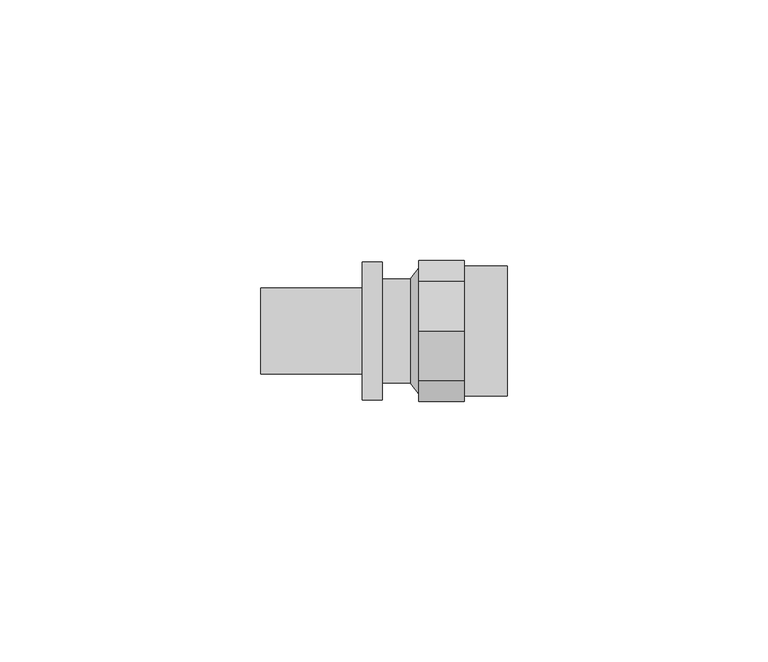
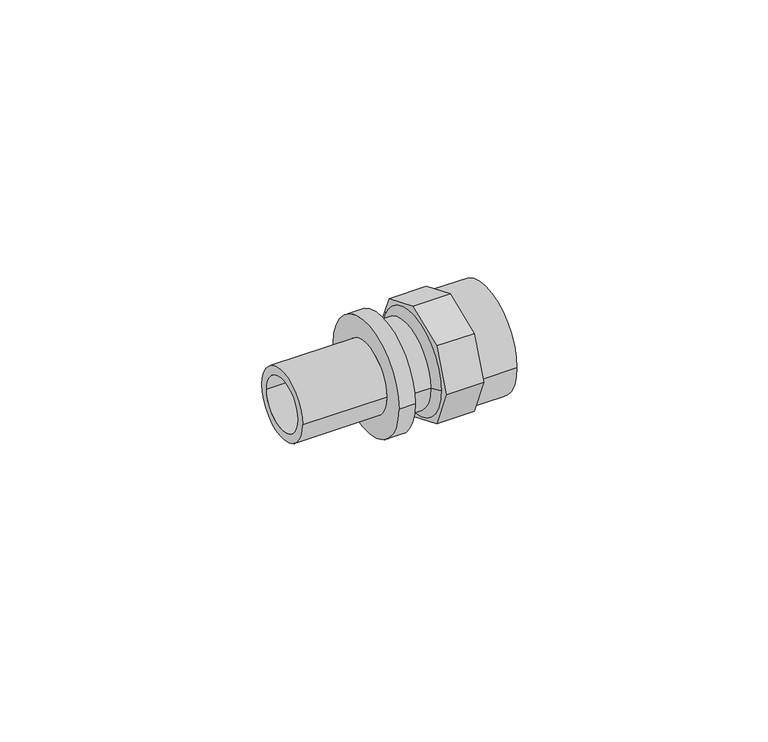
"""IFC4 building model written with IfcOpenShell, lengths in millimetres: pipe fitting geometry, REHAU_RAUTITAN_Adaptor_RX+, with internal thread : REHAU_RAUTITAN_Adaptor_RX+, with internal thread."""

from ifc_helpers import new_model, si_unit, point, frame, origin, origin_2d, place, context, project, spatial, polyline, circle_curve, trimmed, segment, composite_curve, outline, extrude, source, transform, mapped, element, save
from ifc_brep_helpers import plane_surface, cylinder_surface, revolved_surface, advanced_brep


def pipe_fitting_163040be(model_context):
    return source(origin(), model_context, "Body", "SolidModel", [
        extrude(outline(polyline([(-9.5670858, 9.5670858), (0.0, 13.5299025), (9.5670858, 9.5670858), (13.5299025, 0.0), (9.5670858, -9.5670858), (0.0, -13.5299025), (-9.5670858, -9.5670858), (-13.5299025, 0.0), (-9.5670858, 9.5670858)]), holes=[composite_curve([segment(trimmed(circle_curve(origin_2d(), 9.5), [point((-9.5, 0.0))], [point((9.5, 0.0))], True, "CARTESIAN"), True, "CONTINUOUS"), segment(trimmed(circle_curve(origin_2d(), 9.5), [point((9.5, 0.0))], [point((-9.5, 0.0))], True, "CARTESIAN"), True, "CONTINUOUS")], self_intersect=False)]), frame((-4.35, 0.0, 0.0), z_axis=(1.0, 0.0, 0.0), x_axis=(0.0, 1.0, 0.0)), (0.0, 0.0, 1.0), 8.7),
        extrude(outline(composite_curve([segment(trimmed(circle_curve(origin_2d(), 12.5), [point((-12.5, 0.0))], [point((12.5, 0.0))], False, "CARTESIAN"), True, "CONTINUOUS"), segment(trimmed(circle_curve(origin_2d(), 12.5), [point((12.5, 0.0))], [point((-12.5, 0.0))], False, "CARTESIAN"), True, "CONTINUOUS")], self_intersect=False), holes=[composite_curve([segment(trimmed(circle_curve(origin_2d(), 10.39), [point((-10.39, 0.0))], [point((10.39, 0.0))], True, "CARTESIAN"), True, "CONTINUOUS"), segment(trimmed(circle_curve(origin_2d(), 10.39), [point((10.39, 0.0))], [point((-10.39, 0.0))], True, "CARTESIAN"), True, "CONTINUOUS")], self_intersect=False)]), frame((4.35, 0.0, 0.0), z_axis=(1.0, 0.0, 0.0), x_axis=(0.0, 1.0, 0.0)), (0.0, 0.0, 1.0), 8.26),
        advanced_brep(
        [(-5.97, 10.0, 0.0), (-5.97, -10.0, 0.0), (-11.39, -10.0, 0.0), (-11.39, 10.0, 0.0), (-4.09, 12.5, 0.0), (-4.09, -12.5, 0.0), (-5.97, 7.25, 0.0), (-5.97, -7.25, 0.0), (-4.09, -10.39, 0.0), (-4.09, 10.39, 0.0), (-34.69, 6.25, 0.0), (-34.69, -6.25, 0.0), (-11.39, -6.25, 0.0), (-11.39, 6.25, 0.0), (-15.19, 8.225, 0.0), (-15.19, -8.225, 0.0), (-34.69, -8.225, 0.0), (-34.69, 8.225, 0.0), (-11.39, 13.25, 0.0), (-11.39, -13.25, 0.0), (-15.19, -13.25, 0.0), (-15.19, 13.25, 0.0)],
        [
            (0, 1, circle_curve(frame((-5.97, 0.0, 0.0), z_axis=(-1.0, 0.0, 0.0), x_axis=(0.0, -1.0, 0.0)), 10.0)),
            (1, 2),
            (2, 3, circle_curve(frame((-11.39, 0.0, 0.0), z_axis=(1.0, 0.0, 0.0), x_axis=(0.0, -1.0, 0.0)), 10.0)),
            (3, 0),
            (4, 5, circle_curve(frame((-4.09, 0.0, 0.0), z_axis=(-1.0, 0.0, 0.0), x_axis=(0.0, -1.0, 0.0)), 12.5)),
            (5, 1),
            (0, 4),
            (6, 7, circle_curve(frame((-5.97, 0.0, 0.0), z_axis=(-1.0, 0.0, 0.0), x_axis=(0.0, -1.0, 0.0)), 7.25)),
            (7, 8),
            (8, 9, circle_curve(frame((-4.09, 0.0, 0.0), z_axis=(1.0, 0.0, 0.0), x_axis=(0.0, -1.0, 0.0)), 10.39)),
            (9, 6),
            (10, 11, circle_curve(frame((-34.69, 0.0, 0.0), z_axis=(-1.0, 0.0, 0.0), x_axis=(0.0, -1.0, 0.0)), 6.25)),
            (11, 12),
            (12, 13, circle_curve(frame((-11.39, 0.0, 0.0), z_axis=(1.0, 0.0, 0.0), x_axis=(0.0, -1.0, 0.0)), 6.25)),
            (13, 10),
            (14, 15, circle_curve(frame((-15.19, 0.0, 0.0), z_axis=(-1.0, 0.0, 0.0), x_axis=(0.0, -1.0, 0.0)), 8.225)),
            (15, 16),
            (16, 17, circle_curve(frame((-34.69, 0.0, 0.0), z_axis=(1.0, 0.0, 0.0), x_axis=(0.0, -1.0, 0.0)), 8.225)),
            (17, 14),
            (18, 19, circle_curve(frame((-11.39, 0.0, 0.0), z_axis=(-1.0, 0.0, 0.0), x_axis=(0.0, -1.0, 0.0)), 13.25)),
            (19, 20),
            (20, 21, circle_curve(frame((-15.19, 0.0, 0.0), z_axis=(1.0, 0.0, 0.0), x_axis=(0.0, -1.0, 0.0)), 13.25)),
            (21, 18),
            (18, 19, circle_curve(frame((-11.39, 0.0, 0.0), z_axis=(1.0, 0.0, 0.0), x_axis=(0.0, 1.0, 0.0)), 13.25)),
            (2, 3, circle_curve(frame((-11.39, 0.0, 0.0), z_axis=(-1.0, 0.0, 0.0), x_axis=(0.0, 1.0, 0.0)), 10.0)),
            (1, 0, circle_curve(frame((-5.97, 0.0, 0.0), z_axis=(-1.0, 0.0, 0.0), x_axis=(0.0, 1.0, 0.0)), 10.0)),
            (5, 4, circle_curve(frame((-4.09, 0.0, 0.0), z_axis=(-1.0, 0.0, 0.0), x_axis=(0.0, 1.0, 0.0)), 12.5)),
            (7, 6, circle_curve(frame((-5.97, 0.0, 0.0), z_axis=(-1.0, 0.0, 0.0), x_axis=(0.0, 1.0, 0.0)), 7.25)),
            (9, 8, circle_curve(frame((-4.09, 0.0, 0.0), z_axis=(1.0, 0.0, 0.0), x_axis=(0.0, 1.0, 0.0)), 10.39)),
            (11, 10, circle_curve(frame((-34.69, 0.0, 0.0), z_axis=(-1.0, 0.0, 0.0), x_axis=(0.0, 1.0, 0.0)), 6.25)),
            (13, 12, circle_curve(frame((-11.39, 0.0, 0.0), z_axis=(1.0, 0.0, 0.0), x_axis=(0.0, 1.0, 0.0)), 6.25)),
            (16, 17, circle_curve(frame((-34.69, 0.0, 0.0), z_axis=(-1.0, 0.0, 0.0), x_axis=(0.0, 1.0, 0.0)), 8.225)),
            (15, 14, circle_curve(frame((-15.19, 0.0, 0.0), z_axis=(-1.0, 0.0, 0.0), x_axis=(0.0, 1.0, 0.0)), 8.225)),
            (20, 21, circle_curve(frame((-15.19, 0.0, 0.0), z_axis=(-1.0, 0.0, 0.0), x_axis=(0.0, 1.0, 0.0)), 13.25)),
            (12, 7),
            (6, 13),
        ],
        [
            cylinder_surface(frame((0.0, 0.0, 0.0), z_axis=(1.0, 0.0, 0.0), x_axis=(0.0, -1.0, 0.0)), 10.0),
            revolved_surface(polyline([(-5.97, -10.0, 0.0), (-4.09, -12.5, 0.0)]), (0.0, 0.0, 0.0), (1.0, 0.0, 0.0)),
            revolved_surface(polyline([(-4.09, -10.39, 0.0), (-5.97, -7.25, 0.0)]), (0.0, 0.0, 0.0), (1.0, 0.0, 0.0)),
            revolved_surface(polyline([(-11.39, -6.25, 0.0), (-34.69, -6.25, 0.0)]), (0.0, 0.0, 0.0), (1.0, 0.0, 0.0)),
            cylinder_surface(frame((0.0, 0.0, 0.0), z_axis=(1.0, 0.0, 0.0), x_axis=(0.0, -1.0, 0.0)), 8.225),
            cylinder_surface(frame((0.0, 0.0, 0.0), z_axis=(1.0, 0.0, 0.0), x_axis=(0.0, -1.0, 0.0)), 13.25),
            plane_surface(frame((-11.39, 0.0, 0.0), z_axis=(1.0, 0.0, 0.0), x_axis=(0.0, 1.0, 0.0))),
            cylinder_surface(frame((0.0, 0.0, 0.0), z_axis=(1.0, 0.0, 0.0), x_axis=(0.0, 1.0, 0.0)), 10.0),
            revolved_surface(polyline([(-5.97, 10.0, 0.0), (-4.09, 12.5, 0.0)]), (0.0, 0.0, 0.0), (1.0, 0.0, 0.0)),
            revolved_surface(polyline([(-4.09, 10.39, 0.0), (-5.97, 7.25, 0.0)]), (0.0, 0.0, 0.0), (1.0, 0.0, 0.0)),
            revolved_surface(polyline([(-11.39, 6.25, 0.0), (-34.69, 6.25, 0.0)]), (0.0, 0.0, 0.0), (1.0, 0.0, 0.0)),
            plane_surface(frame((-34.69, 0.0, 0.0), z_axis=(-1.0, 0.0, 0.0), x_axis=(0.0, 1.0, 0.0))),
            cylinder_surface(frame((0.0, 0.0, 0.0), z_axis=(1.0, 0.0, 0.0), x_axis=(0.0, 1.0, 0.0)), 8.225),
            plane_surface(frame((-15.19, 0.0, 0.0), z_axis=(-1.0, 0.0, 0.0), x_axis=(0.0, 1.0, 0.0))),
            cylinder_surface(frame((0.0, 0.0, 0.0), z_axis=(1.0, 0.0, 0.0), x_axis=(0.0, 1.0, 0.0)), 13.25),
            revolved_surface(polyline([(-5.97, -7.25, 0.0), (-11.39, -6.25, 0.0)]), (0.0, 0.0, 0.0), (1.0, 0.0, 0.0)),
            revolved_surface(polyline([(-5.97, 7.25, 0.0), (-11.39, 6.25, 0.0)]), (0.0, 0.0, 0.0), (1.0, 0.0, 0.0)),
            plane_surface(frame((-4.09, 0.0, 0.0), z_axis=(1.0, 0.0, 0.0), x_axis=(0.0, 1.0, 0.0))),
        ],
        [
            (0, [[1, 2, 3, 4]]),
            (1, [[5, 6, -1, 7]]),
            (2, [[8, 9, 10, 11]]),
            (3, [[12, 13, 14, 15]]),
            (4, [[16, 17, 18, 19]]),
            (5, [[20, 21, 22, 23]]),
            (6, [[24, -20], [25, -3]]),
            (7, [[26, -4, -25, -2]]),
            (8, [[27, -7, -26, -6]]),
            (9, [[28, -11, 29, -9]]),
            (10, [[30, -15, 31, -13]]),
            (11, [[32, -18], [-30, -12]]),
            (12, [[33, -19, -32, -17]]),
            (13, [[34, -22], [-33, -16]]),
            (14, [[-24, -23, -34, -21]]),
            (15, [[-14, 35, -8, 36]]),
            (16, [[-31, -36, -28, -35]]),
            (17, [[-27, -5], [-29, -10]]),
        ],
    ),
    ])


if __name__ == "__main__":
    model = new_model("IFC4")
    model_context = context("Model", 3, world=origin())
    ifc_project = project(units=[si_unit("LENGTHUNIT", "METRE", prefix="MILLI")], contexts=[model_context])
    site = spatial("IfcSite", under=ifc_project)
    building = spatial("IfcBuilding", under=site)
    placement = place(None, origin())
    pipe_fitting_shape = pipe_fitting_163040be(model_context)
    element("IfcPipeFitting", 1, ObjectType="REHAU_RAUTITAN_Adaptor_RX+, with internal thread : REHAU_RAUTITAN_Adaptor_RX+, with internal thread", at=placement, inside=building, context=model_context, shape_type="MappedRepresentation", body=[
        mapped(pipe_fitting_shape, transform((0.0, 0.0, 0.0), x_axis=(1.0, 0.0, 0.0), y_axis=(0.0, 1.0, 0.0), z_axis=(0.0, 0.0, 1.0))),
    ])
    save(model, "model.ifc")
